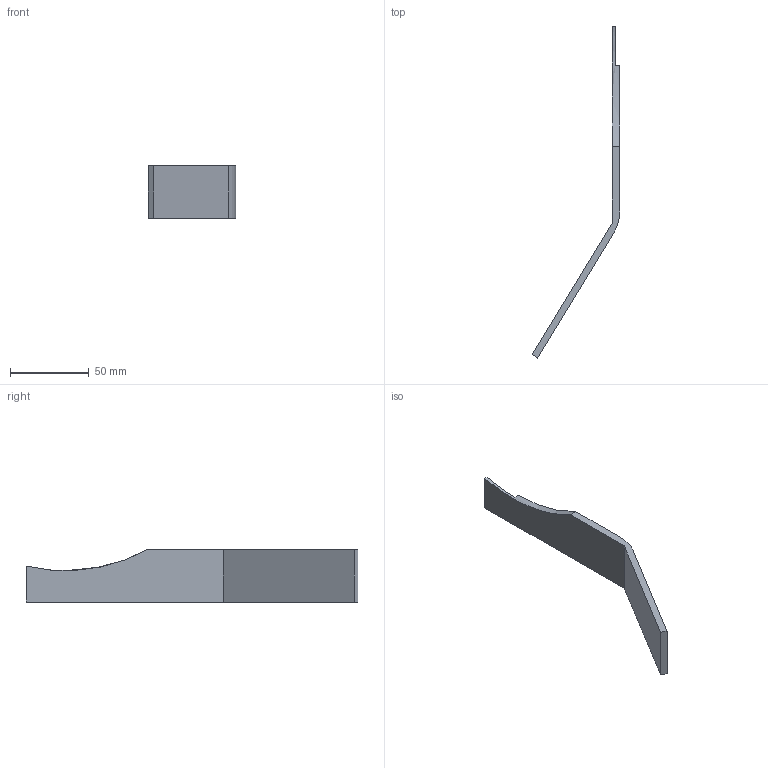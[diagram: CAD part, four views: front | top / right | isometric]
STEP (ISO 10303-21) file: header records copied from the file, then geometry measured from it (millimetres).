
FILE_DESCRIPTION(/* description */ ('STEP AP242 Edition 2','CAx-IF Rec.Pracs.---Representation and Presentation of Product Manufacturing Information (PMI)---4.0---2014-10-13','CAx-IF Rec.Pracs.---3D Tessellated Geometry---0.4---2014-09-14','2;1','CAx-IF Rec.Pracs.---User Defined Attributes---1.5---2016-08-15'),/* implementation_level */ '2;1');
FILE_NAME(/* name */ 'Part Studio 1 - Feed Guide R',/* time_stamp */ '2026-04-09T20:19:24Z',/* author */ (''),/* organization */ (''),/* preprocessor_version */ 'ST-DEVELOPER v20',/* originating_system */ 'ONSHAPE BY PTC INC, 1.213',/* authorisation */ ' ');
FILE_SCHEMA (('AP242_MANAGED_MODEL_BASED_3D_ENGINEERING_MIM_LF { 1 0 10303 442 3 1 4 }'));
Length unit declared in the file: metre
Products named in the file (1): Feed Guide R
Bounding box: 55.65 x 210.42 x 33 mm (x, y, z)
Volume: 28960.2 mm3; surface area: 15416.9 mm2
Topology: 1 solids, 1 shells, 12 faces, 30 edges, 20 vertices
Faces by surface type: plane 10, cylinder 2
Entity records: 381 total; most frequent: CARTESIAN_POINT 63, DIRECTION 61, ORIENTED_EDGE 60, EDGE_CURVE 30, LINE 25, VECTOR 25, VERTEX_POINT 20, AXIS2_PLACEMENT_3D 18
